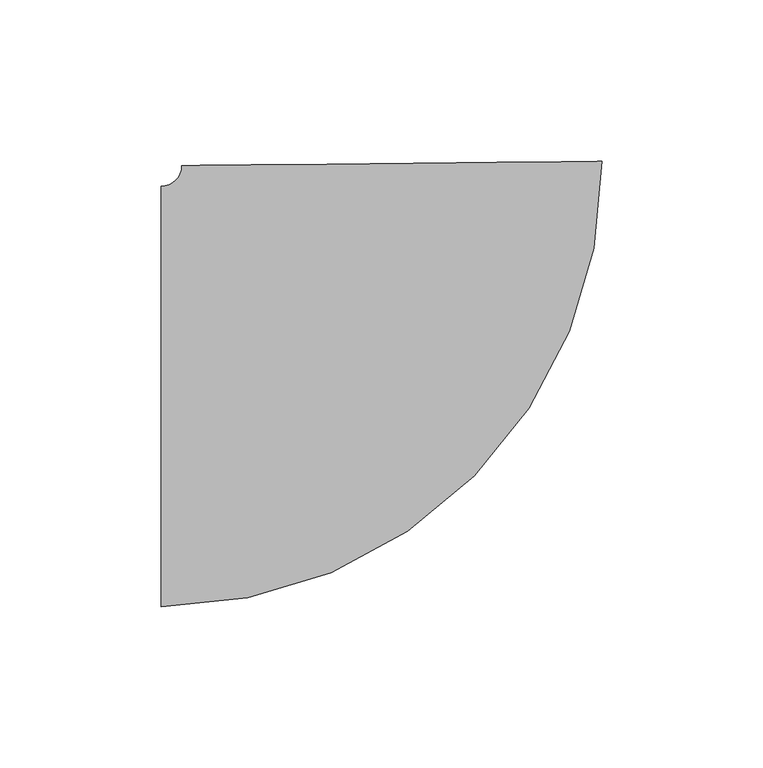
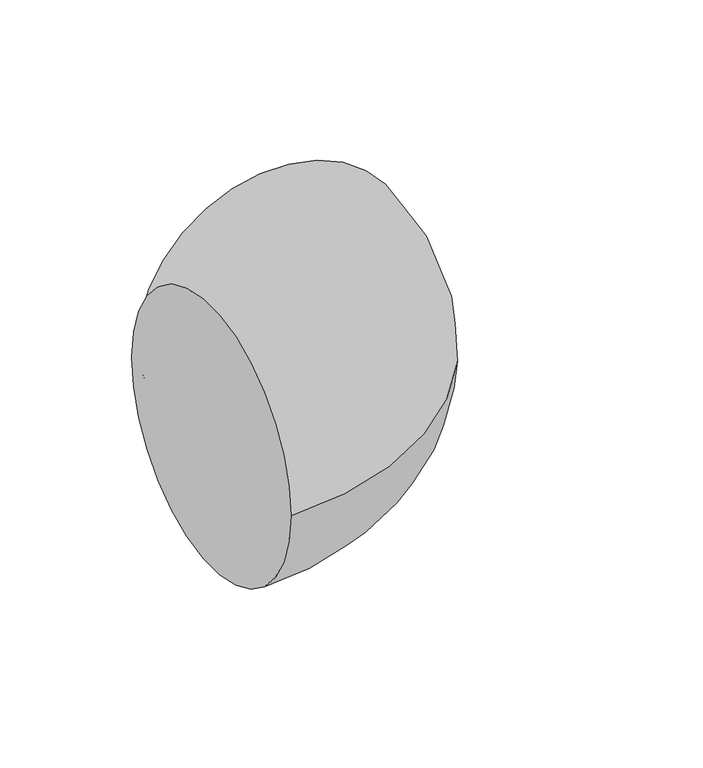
"""IFC4 building model written with IfcOpenShell, lengths in millimetres: pipe fitting geometry, M_Codo - Genérico : Estándar."""

from ifc_helpers import new_model, si_unit, point, frame, origin, place, context, project, spatial, circle_curve, ellipse_curve, trimmed, source, transform, mapped, element, save
from ifc_brep_helpers import plane_surface, revolved_surface, advanced_brep


def pipe_fitting_885b0a43(model_context):
    return source(origin(), model_context, "Body", "AdvancedBrep", [
        advanced_brep(
        [(-72.1554468, -65.0875, 0.0), (-72.1554468, 65.0875, 0.0), (64.3627275, 72.8026817, 0.0), (-65.8057643, 71.5009968, 0.0)],
        [
            (0, 1, circle_curve(frame((-72.1554468, 0.0, 0.0), z_axis=(-1.0, 0.0, 0.0), x_axis=(0.0, 1.0, 0.0)), 65.0875)),
            (1, 0, circle_curve(frame((-72.1554468, 0.0, 0.0), z_axis=(-1.0, 0.0, 0.0), x_axis=(0.0, 1.0, 0.0)), 65.0875)),
            (2, 3, circle_curve(frame((-0.7215184, 72.1518393, 0.0), z_axis=(-0.009999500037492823, 0.9999500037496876, 0.0), x_axis=(-0.9999500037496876, -0.009999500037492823, 0.0)), 65.0875)),
            (3, 2, circle_curve(frame((-0.7215184, 72.1518393, 0.0), z_axis=(-0.009999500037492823, 0.9999500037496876, 0.0), x_axis=(-0.9999500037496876, -0.009999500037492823, 0.0)), 65.0875)),
            (3, 1, circle_curve(frame((-72.1554468, 71.4375, 0.0), z_axis=(0.0, 0.0, -1.0), x_axis=(0.0, -1.0, 0.0)), 6.35)),
            (0, 2, circle_curve(frame((-72.1554468, 71.4375, 0.0), z_axis=(0.0, 0.0, 1.0), x_axis=(0.0, -1.0, 0.0)), 136.525)),
        ],
        [
            plane_surface(frame((-72.1554468, 0.0, 0.0), z_axis=(-1.0, 0.0, 0.0), x_axis=(0.0, 0.0, 1.0))),
            plane_surface(frame((-0.7215184, 72.1518393, 0.0), z_axis=(-0.009999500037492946, 0.9999500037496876, 0.0), x_axis=(0.0, 0.0, 1.0))),
            revolved_surface(trimmed(ellipse_curve(frame((-72.1554468, 0.0, 0.0), z_axis=(-1.0, 0.0, 0.0), x_axis=(0.0, 1.0, 0.0)), 65.0875, 65.0875), [point((-72.1554468, -65.0875, 0.0))], [point((-72.1554468, 65.0875, 0.0))], True, "CARTESIAN"), (-72.1554468, 71.4375, 0.0), (0.0, 0.0, 1.0)),
            revolved_surface(trimmed(ellipse_curve(frame((-72.1554468, 0.0, 0.0), z_axis=(-1.0, 0.0, 0.0), x_axis=(0.0, 1.0, 0.0)), 65.0875, 65.0875), [point((-72.1554468, 65.0875, 0.0))], [point((-72.1554468, -65.0875, 0.0))], True, "CARTESIAN"), (-72.1554468, 71.4375, 0.0), (0.0, 0.0, 1.0)),
        ],
        [
            (0, [[1, 2]]),
            (1, [[3, 4]]),
            (2, [[5, -1, 6, -4]]),
            (3, [[-6, -2, -5, -3]]),
        ],
    ),
    ])


if __name__ == "__main__":
    model = new_model("IFC4")
    model_context = context("Model", 3, world=origin())
    ifc_project = project(units=[si_unit("LENGTHUNIT", "METRE", prefix="MILLI")], contexts=[model_context])
    site = spatial("IfcSite", under=ifc_project)
    building = spatial("IfcBuilding", under=site)
    placement = place(None, origin())
    pipe_fitting_shape = pipe_fitting_885b0a43(model_context)
    element("IfcPipeFitting", 1, ObjectType="M_Codo - Genérico : Estándar", at=placement, inside=building, context=model_context, shape_type="MappedRepresentation", body=[
        mapped(pipe_fitting_shape, transform((0.0, 0.0, 0.0), x_axis=(1.0, 0.0, 0.0), y_axis=(0.0, 1.0, 0.0), z_axis=(0.0, 0.0, 1.0))),
    ])
    save(model, "model.ifc")
